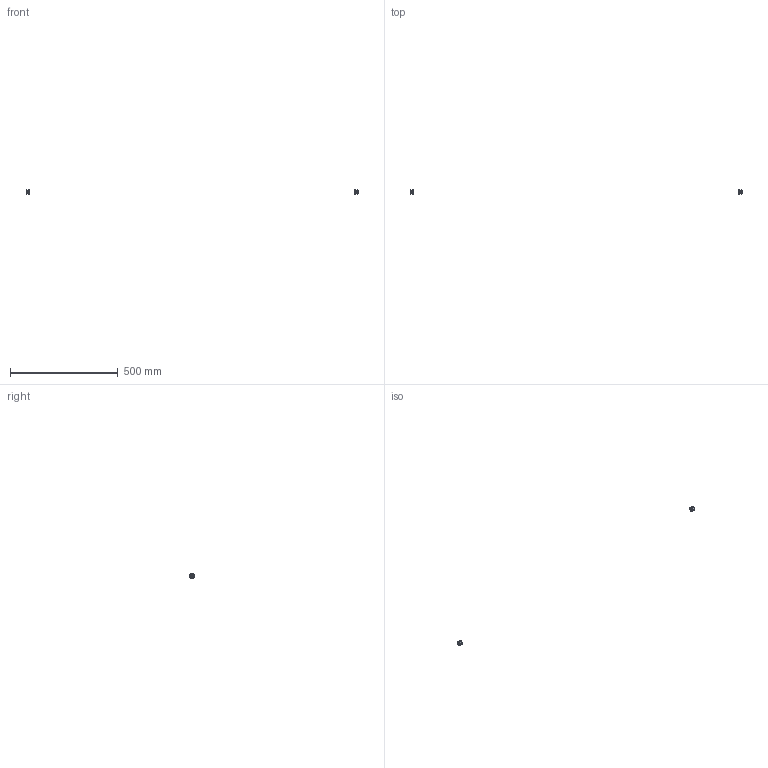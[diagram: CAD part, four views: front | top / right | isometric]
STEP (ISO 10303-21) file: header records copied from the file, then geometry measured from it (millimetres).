
FILE_DESCRIPTION(/* description */ (''),/* implementation_level */ '2;1');
FILE_NAME(/* name */ 'Y-B577~1',/* time_stamp */ '2014-02-14T19:39:46+01:00',/* author */ (''),/* organization */ (''),/* preprocessor_version */ 'ST-DEVELOPER v14',/* originating_system */ '',/* authorisation */ '');
FILE_SCHEMA (('AUTOMOTIVE_DESIGN'));
Length unit declared in the file: millimetre
Products named in the file (2): Document; pulley GPA20GT3090-A-P6
Assembly tree (1 placements, depth 2):
  Document
    pulley GPA20GT3090-A-P6
Bounding box: 1538 x 22 x 21.96 mm (x, y, z)
Surface area: 4240.9 mm2 (no closed solid volume)
Topology: 0 solids, 496 shells, 496 faces, 1834 edges, 1834 vertices
Faces by surface type: bspline 448, plane 48
Entity records: 46141 total; most frequent: CARTESIAN_POINT 25240, B_SPLINE_CURVE_WITH_KNOTS 2724, ORIENTED_EDGE 1834, PCURVE 1834, DEFINITIONAL_REPRESENTATION 1834, SURFACE_CURVE 1834, EDGE_CURVE 1834, VERTEX_POINT 1834
